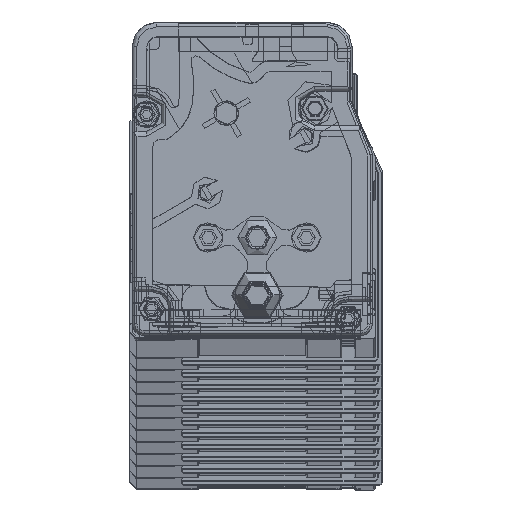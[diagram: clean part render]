
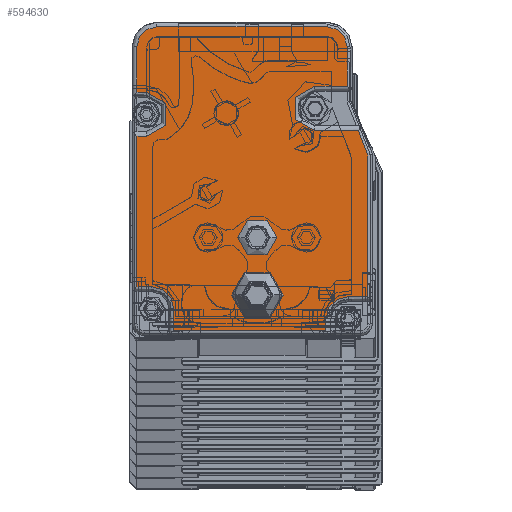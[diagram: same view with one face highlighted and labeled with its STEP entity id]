
A CAD part, top view. The second image highlights one B-rep face of the part: STEP entity #594630.
In plain terms, the highlighted planar face has unit normal (0, 0, 1).
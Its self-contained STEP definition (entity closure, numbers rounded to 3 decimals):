
#592520=CARTESIAN_POINT('',(-20.265,1.758,
4572.39));
#592530=DIRECTION('',(0.,0.,-1.));
#592540=DIRECTION('',(-1.,0.,0.));
#592550=AXIS2_PLACEMENT_3D('',#592520,#592530,#592540);
#592560=PLANE('',#592550);
#592570=CARTESIAN_POINT('',(-44.056,10.421,
4572.39));
#592580=DIRECTION('',(0.,0.,-1.));
#592590=DIRECTION('',(-1.,0.,0.));
#592600=AXIS2_PLACEMENT_3D('',#592570,#592580,#592590);
#592610=CIRCLE('',#592600,5.);
#592620=CARTESIAN_POINT('',(-49.056,10.421,
4572.39));
#592630=VERTEX_POINT('',#592620);
#592640=CARTESIAN_POINT('',(-39.056,10.421,
4572.39));
#592650=VERTEX_POINT('',#592640);
#592660=EDGE_CURVE('',#592630,#592650,#592610,.T.);
#592670=ORIENTED_EDGE('',*,*,#592660,.T.);
#592680=EDGE_CURVE('',#592650,#592630,#592610,.T.);
#592690=ORIENTED_EDGE('',*,*,#592680,.T.);
#592700=EDGE_LOOP('',(#592690,#592670));
#592710=FACE_BOUND('',#592700,.T.);
#592720=CARTESIAN_POINT('',(-44.059,22.124,
4572.39));
#592730=DIRECTION('',(0.,0.,1.));
#592740=DIRECTION('',(-1.,0.,0.));
#592750=AXIS2_PLACEMENT_3D('',#592720,#592730,#592740);
#592760=CIRCLE('',#592750,4.);
#592770=CARTESIAN_POINT('',(-40.059,22.124,
4572.39));
#592780=VERTEX_POINT('',#592770);
#592790=CARTESIAN_POINT('',(-48.059,22.124,
4572.39));
#592800=VERTEX_POINT('',#592790);
#592810=EDGE_CURVE('',#592780,#592800,#592760,.T.);
#592820=ORIENTED_EDGE('',*,*,#592810,.F.);
#592830=EDGE_CURVE('',#592800,#592780,#592760,.T.);
#592840=ORIENTED_EDGE('',*,*,#592830,.F.);
#592850=EDGE_LOOP('',(#592840,#592820));
#592860=FACE_BOUND('',#592850,.T.);
#592870=CARTESIAN_POINT('',(-61.059,2.124,
4572.39));
#592880=DIRECTION('',(0.,-1.,0.));
#592890=VECTOR('',#592880,1.);
#592900=LINE('',#592870,#592890);
#592910=CARTESIAN_POINT('',(-61.059,7.624,
4572.39));
#592920=VERTEX_POINT('',#592910);
#592930=CARTESIAN_POINT('',(-61.059,3.124,
4572.39));
#592940=VERTEX_POINT('',#592930);
#592950=EDGE_CURVE('',#592920,#592940,#592900,.T.);
#592960=ORIENTED_EDGE('',*,*,#592950,.T.);
#592970=CARTESIAN_POINT('',(-65.559,7.624,
4572.39));
#592980=DIRECTION('',(0.,0.,-1.));
#592990=DIRECTION('',(-1.,0.,0.));
#593000=AXIS2_PLACEMENT_3D('',#592970,#592980,#592990);
#593010=CIRCLE('',#593000,4.5);
#593020=CARTESIAN_POINT('',(-65.559,12.124,
4572.39));
#593030=VERTEX_POINT('',#593020);
#593040=EDGE_CURVE('',#593030,#592920,#593010,.T.);
#593050=ORIENTED_EDGE('',*,*,#593040,.T.);
#593060=CARTESIAN_POINT('',(-20.559,12.124,
4572.39));
#593070=DIRECTION('',(1.,0.,0.));
#593080=VECTOR('',#593070,1.);
#593090=LINE('',#593060,#593080);
#593100=CARTESIAN_POINT('',(-68.559,12.124,
4572.39));
#593110=VERTEX_POINT('',#593100);
#593120=EDGE_CURVE('',#593110,#593030,#593090,.T.);
#593130=ORIENTED_EDGE('',*,*,#593120,.T.);
#593140=CARTESIAN_POINT('',(-68.559,2.124,
4572.39));
#593150=DIRECTION('',(0.,-1.,0.));
#593160=VECTOR('',#593150,1.);
#593170=LINE('',#593140,#593160);
#593180=CARTESIAN_POINT('',(-68.559,42.727,
4572.39));
#593190=VERTEX_POINT('',#593180);
#593200=EDGE_CURVE('',#593190,#593110,#593170,.T.);
#593210=ORIENTED_EDGE('',*,*,#593200,.T.);
#593220=CARTESIAN_POINT('',(-20.559,42.727,
4572.39));
#593230=DIRECTION('',(-1.,0.,0.));
#593240=VECTOR('',#593230,1.);
#593250=LINE('',#593220,#593240);
#593260=CARTESIAN_POINT('',(-66.559,42.727,
4572.39));
#593270=VERTEX_POINT('',#593260);
#593280=EDGE_CURVE('',#593270,#593190,#593250,.T.);
#593290=ORIENTED_EDGE('',*,*,#593280,.T.);
#593300=CARTESIAN_POINT('',(-66.559,47.227,
4572.39));
#593310=DIRECTION('',(0.,0.,-1.));
#593320=DIRECTION('',(-1.,0.,0.));
#593330=AXIS2_PLACEMENT_3D('',#593300,#593310,#593320);
#593340=CIRCLE('',#593330,4.5);
#593350=CARTESIAN_POINT('',(-66.559,51.727,
4572.39));
#593360=VERTEX_POINT('',#593350);
#593370=EDGE_CURVE('',#593360,#593270,#593340,.T.);
#593380=ORIENTED_EDGE('',*,*,#593370,.T.);
#593390=CARTESIAN_POINT('',(-20.559,51.727,
4572.39));
#593400=DIRECTION('',(1.,0.,0.));
#593410=VECTOR('',#593400,1.);
#593420=LINE('',#593390,#593410);
#593430=CARTESIAN_POINT('',(-68.559,51.727,
4572.39));
#593440=VERTEX_POINT('',#593430);
#593450=EDGE_CURVE('',#593440,#593360,#593420,.T.);
#593460=ORIENTED_EDGE('',*,*,#593450,.T.);
#593470=CARTESIAN_POINT('',(-68.559,2.124,
4572.39));
#593480=DIRECTION('',(0.,-1.,0.));
#593490=VECTOR('',#593480,1.);
#593500=LINE('',#593470,#593490);
#593510=CARTESIAN_POINT('',(-68.559,61.024,
4572.39));
#593520=VERTEX_POINT('',#593510);
#593530=EDGE_CURVE('',#593520,#593440,#593500,.T.);
#593540=ORIENTED_EDGE('',*,*,#593530,.T.);
#593550=CARTESIAN_POINT('',(-64.559,61.024,
4572.39));
#593560=DIRECTION('',(0.,0.,1.));
#593570=DIRECTION('',(1.,0.,0.));
#593580=AXIS2_PLACEMENT_3D('',#593550,#593560,#593570);
#593590=CIRCLE('',#593580,4.);
#593600=CARTESIAN_POINT('',(-64.559,65.024,
4572.39));
#593610=VERTEX_POINT('',#593600);
#593620=EDGE_CURVE('',#593610,#593520,#593590,.T.);
#593630=ORIENTED_EDGE('',*,*,#593620,.T.);
#593640=CARTESIAN_POINT('',(-20.559,65.024,
4572.39));
#593650=DIRECTION('',(-1.,0.,0.));
#593660=VECTOR('',#593650,1.);
#593670=LINE('',#593640,#593660);
#593680=CARTESIAN_POINT('',(-29.759,65.024,
4572.39));
#593690=VERTEX_POINT('',#593680);
#593700=EDGE_CURVE('',#593690,#593610,#593670,.T.);
#593710=ORIENTED_EDGE('',*,*,#593700,.T.);
#593720=CARTESIAN_POINT('',(-29.759,61.024,
4572.39));
#593730=DIRECTION('',(0.,0.,1.));
#593740=DIRECTION('',(1.,0.,0.));
#593750=AXIS2_PLACEMENT_3D('',#593720,#593730,#593740);
#593760=CIRCLE('',#593750,4.);
#593770=CARTESIAN_POINT('',(-25.759,61.024,
4572.39));
#593780=VERTEX_POINT('',#593770);
#593790=EDGE_CURVE('',#593780,#593690,#593760,.T.);
#593800=ORIENTED_EDGE('',*,*,#593790,.T.);
#593810=CARTESIAN_POINT('',(-25.759,2.124,
4572.39));
#593820=DIRECTION('',(0.,1.,0.));
#593830=VECTOR('',#593820,1.);
#593840=LINE('',#593810,#593830);
#593850=CARTESIAN_POINT('',(-25.759,52.924,
4572.39));
#593860=VERTEX_POINT('',#593850);
#593870=EDGE_CURVE('',#593860,#593780,#593840,.T.);
#593880=ORIENTED_EDGE('',*,*,#593870,.T.);
#593890=CARTESIAN_POINT('',(-20.559,52.924,
4572.39));
#593900=DIRECTION('',(-1.,0.,0.));
#593910=VECTOR('',#593900,1.);
#593920=LINE('',#593890,#593910);
#593930=CARTESIAN_POINT('',(-32.309,52.924,
4572.39));
#593940=VERTEX_POINT('',#593930);
#593950=EDGE_CURVE('',#593860,#593940,#593920,.T.);
#593960=ORIENTED_EDGE('',*,*,#593950,.F.);
#593970=CARTESIAN_POINT('',(-32.309,48.424,
4572.39));
#593980=DIRECTION('',(0.,0.,-1.));
#593990=DIRECTION('',(-1.,0.,0.));
#594000=AXIS2_PLACEMENT_3D('',#593970,#593980,#593990);
#594010=CIRCLE('',#594000,4.5);
#594020=CARTESIAN_POINT('',(-32.309,43.924,
4572.39));
#594030=VERTEX_POINT('',#594020);
#594040=EDGE_CURVE('',#594030,#593940,#594010,.T.);
#594050=ORIENTED_EDGE('',*,*,#594040,.T.);
#594060=CARTESIAN_POINT('',(-20.559,43.924,
4572.39));
#594070=DIRECTION('',(-1.,0.,0.));
#594080=VECTOR('',#594070,1.);
#594090=LINE('',#594060,#594080);
#594100=CARTESIAN_POINT('',(-23.499,43.924,
4572.39));
#594110=VERTEX_POINT('',#594100);
#594120=EDGE_CURVE('',#594110,#594030,#594090,.T.);
#594130=ORIENTED_EDGE('',*,*,#594120,.T.);
#594140=CARTESIAN_POINT('',(-7.243,2.124,
4572.39));
#594150=DIRECTION('',(0.362,-0.932,0.));
#594160=VECTOR('',#594150,1.);
#594170=LINE('',#594140,#594160);
#594180=CARTESIAN_POINT('',(-21.559,38.937,
4572.39));
#594190=VERTEX_POINT('',#594180);
#594200=EDGE_CURVE('',#594110,#594190,#594170,.T.);
#594210=ORIENTED_EDGE('',*,*,#594200,.F.);
#594220=CARTESIAN_POINT('',(-21.559,2.124,
4572.39));
#594230=DIRECTION('',(0.,-1.,0.));
#594240=VECTOR('',#594230,1.);
#594250=LINE('',#594220,#594240);
#594260=CARTESIAN_POINT('',(-21.559,10.124,
4572.39));
#594270=VERTEX_POINT('',#594260);
#594280=EDGE_CURVE('',#594190,#594270,#594250,.T.);
#594290=ORIENTED_EDGE('',*,*,#594280,.F.);
#594300=CARTESIAN_POINT('',(-20.559,10.124,
4572.39));
#594310=DIRECTION('',(1.,0.,0.));
#594320=VECTOR('',#594310,1.);
#594330=LINE('',#594300,#594320);
#594340=CARTESIAN_POINT('',(-25.559,10.124,
4572.39));
#594350=VERTEX_POINT('',#594340);
#594360=EDGE_CURVE('',#594350,#594270,#594330,.T.);
#594370=ORIENTED_EDGE('',*,*,#594360,.T.);
#594380=CARTESIAN_POINT('',(-25.559,5.624,
4572.39));
#594390=DIRECTION('',(0.,0.,-1.));
#594400=DIRECTION('',(-1.,0.,0.));
#594410=AXIS2_PLACEMENT_3D('',#594380,#594390,#594400);
#594420=CIRCLE('',#594410,4.5);
#594430=CARTESIAN_POINT('',(-30.059,5.624,
4572.39));
#594440=VERTEX_POINT('',#594430);
#594450=EDGE_CURVE('',#594440,#594350,#594420,.T.);
#594460=ORIENTED_EDGE('',*,*,#594450,.T.);
#594470=CARTESIAN_POINT('',(-30.059,2.124,
4572.39));
#594480=DIRECTION('',(0.,1.,0.));
#594490=VECTOR('',#594480,1.);
#594500=LINE('',#594470,#594490);
#594510=CARTESIAN_POINT('',(-30.059,3.124,
4572.39));
#594520=VERTEX_POINT('',#594510);
#594530=EDGE_CURVE('',#594520,#594440,#594500,.T.);
#594540=ORIENTED_EDGE('',*,*,#594530,.T.);
#594550=CARTESIAN_POINT('',(-20.559,3.124,
4572.39));
#594560=DIRECTION('',(-1.,0.,0.));
#594570=VECTOR('',#594560,1.);
#594580=LINE('',#594550,#594570);
#594590=EDGE_CURVE('',#594520,#592940,#594580,.T.);
#594600=ORIENTED_EDGE('',*,*,#594590,.F.);
#594610=EDGE_LOOP('',(#594600,#594540,#594460,#594370,#594290,#594210,
#594130,#594050,#593960,#593880,#593800,#593710,#593630,#593540,#593460,
#593380,#593290,#593210,#593130,#593050,#592960));
#594620=FACE_OUTER_BOUND('',#594610,.T.);
#594630=ADVANCED_FACE('',(#592710,#592860,#594620),#592560,.F.);
